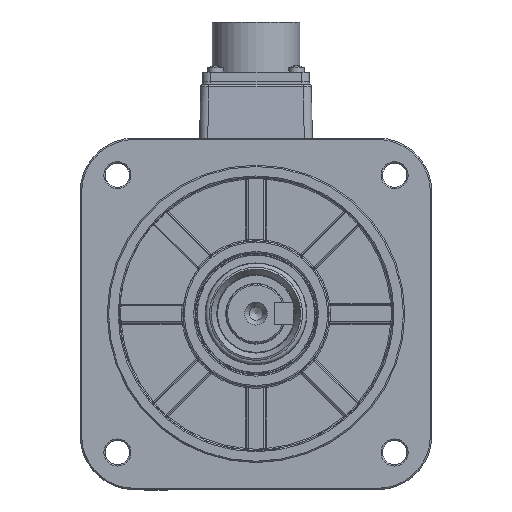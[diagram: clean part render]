
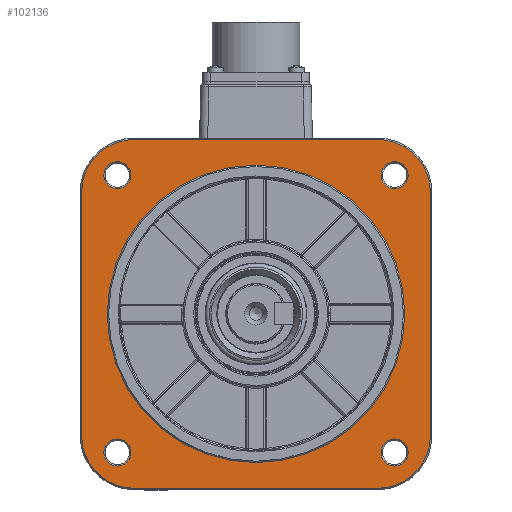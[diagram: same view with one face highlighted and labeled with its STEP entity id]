
A CAD part, top view. The second image highlights one B-rep face of the part: STEP entity #102136.
In plain terms, the highlighted planar face has unit normal (0, 0, 1).
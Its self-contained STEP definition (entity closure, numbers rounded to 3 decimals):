
#1516 = VERTEX_POINT ( 'NONE', #179482 ) ;
#1548 = EDGE_LOOP ( 'NONE', ( #88348 ) ) ;
#1876 = CARTESIAN_POINT ( 'NONE',  ( 45., 64.5, -5. ) ) ;
#1897 = FACE_BOUND ( 'NONE', #164307, .T. ) ;
#2606 = EDGE_CURVE ( 'NONE', #65497, #203440, #81240, .T. ) ;
#5748 = VERTEX_POINT ( 'NONE', #135360 ) ;
#5945 = CIRCLE ( 'NONE', #135952, 5. ) ;
#16042 = AXIS2_PLACEMENT_3D ( 'NONE', #200973, #218517, #58996 ) ;
#16442 = DIRECTION ( 'NONE',  ( 0., 1., 0. ) ) ;
#18868 = EDGE_LOOP ( 'NONE', ( #68346, #35653, #151516, #151448, #161691, #197443, #85599, #28686 ) ) ;
#22049 = EDGE_LOOP ( 'NONE', ( #95048 ) ) ;
#22379 = VERTEX_POINT ( 'NONE', #93330 ) ;
#22634 = EDGE_CURVE ( 'NONE', #106002, #41826, #196539, .T. ) ;
#28686 = ORIENTED_EDGE ( 'NONE', *, *, #102724, .F. ) ;
#32471 = FACE_OUTER_BOUND ( 'NONE', #18868, .T. ) ;
#33269 = LINE ( 'NONE', #52964, #80977 ) ;
#35049 = DIRECTION ( 'NONE',  ( 1., 0., 0. ) ) ;
#35653 = ORIENTED_EDGE ( 'NONE', *, *, #56729, .F. ) ;
#36209 = DIRECTION ( 'NONE',  ( 1., 0., 0. ) ) ;
#36281 = AXIS2_PLACEMENT_3D ( 'NONE', #217496, #89458, #73144 ) ;
#36763 = PLANE ( 'NONE',  #228839 ) ;
#39044 = FACE_BOUND ( 'NONE', #147015, .T. ) ;
#39160 = EDGE_CURVE ( 'NONE', #208853, #106002, #72241, .T. ) ;
#41826 = VERTEX_POINT ( 'NONE', #191567 ) ;
#42740 = DIRECTION ( 'NONE',  ( 1., 0., 0. ) ) ;
#48895 = EDGE_CURVE ( 'NONE', #81887, #81887, #202630, .T. ) ;
#49879 = FACE_BOUND ( 'NONE', #153378, .T. ) ;
#50192 = CARTESIAN_POINT ( 'NONE',  ( -64.5, -45., -5. ) ) ;
#51863 = DIRECTION ( 'NONE',  ( 1., 0., 0. ) ) ;
#52964 = CARTESIAN_POINT ( 'NONE',  ( 64.5, -45., -5. ) ) ;
#54109 = CARTESIAN_POINT ( 'NONE',  ( 45., -64.5, -5. ) ) ;
#54496 = DIRECTION ( 'NONE',  ( 1., 0., 0. ) ) ;
#55336 = FACE_BOUND ( 'NONE', #22049, .T. ) ;
#56729 = EDGE_CURVE ( 'NONE', #110216, #65497, #209520, .T. ) ;
#58996 = DIRECTION ( 'NONE',  ( 1., 0., 0. ) ) ;
#62194 = CARTESIAN_POINT ( 'NONE',  ( -45., -64.5, -5. ) ) ;
#63605 = CARTESIAN_POINT ( 'NONE',  ( -51.265, 51.265, -5. ) ) ;
#64986 = VECTOR ( 'NONE', #51863, 1000. ) ;
#65497 = VERTEX_POINT ( 'NONE', #54109 ) ;
#65615 = DIRECTION ( 'NONE',  ( 1., 0., 0. ) ) ;
#67184 = CIRCLE ( 'NONE', #108151, 19.5 ) ;
#68346 = ORIENTED_EDGE ( 'NONE', *, *, #2606, .F. ) ;
#69373 = CARTESIAN_POINT ( 'NONE',  ( 64.5, 45., -5. ) ) ;
#70957 = VERTEX_POINT ( 'NONE', #88440 ) ;
#71609 = LINE ( 'NONE', #1876, #64986 ) ;
#72241 = LINE ( 'NONE', #50192, #202768 ) ;
#73144 = DIRECTION ( 'NONE',  ( 1., 0., 0. ) ) ;
#75215 = EDGE_CURVE ( 'NONE', #5748, #100507, #67184, .T. ) ;
#77117 = CIRCLE ( 'NONE', #36281, 5. ) ;
#80055 = AXIS2_PLACEMENT_3D ( 'NONE', #190176, #204225, #65615 ) ;
#80977 = VECTOR ( 'NONE', #87895, 1000. ) ;
#81240 = LINE ( 'NONE', #223261, #82918 ) ;
#81887 = VERTEX_POINT ( 'NONE', #132002 ) ;
#82918 = VECTOR ( 'NONE', #134786, 1000. ) ;
#85495 = DIRECTION ( 'NONE',  ( 1., 0., 0. ) ) ;
#85599 = ORIENTED_EDGE ( 'NONE', *, *, #39160, .F. ) ;
#85779 = EDGE_CURVE ( 'NONE', #22379, #22379, #5945, .T. ) ;
#87895 = DIRECTION ( 'NONE',  ( 0., -1., 0. ) ) ;
#88348 = ORIENTED_EDGE ( 'NONE', *, *, #85779, .F. ) ;
#88440 = CARTESIAN_POINT ( 'NONE',  ( 55., 0., -5. ) ) ;
#89312 = EDGE_CURVE ( 'NONE', #1516, #1516, #77117, .T. ) ;
#89458 = DIRECTION ( 'NONE',  ( 0., 0., 1. ) ) ;
#90627 = ORIENTED_EDGE ( 'NONE', *, *, #121996, .F. ) ;
#93330 = CARTESIAN_POINT ( 'NONE',  ( -46.265, 51.265, -5. ) ) ;
#93720 = CARTESIAN_POINT ( 'NONE',  ( 0., 55., -5. ) ) ;
#95048 = ORIENTED_EDGE ( 'NONE', *, *, #89312, .F. ) ;
#100507 = VERTEX_POINT ( 'NONE', #69373 ) ;
#102136 = ADVANCED_FACE ( 'NONE', ( #32471, #110014, #1897, #39044, #55336, #49879 ), #36763, .T. ) ;
#102724 = EDGE_CURVE ( 'NONE', #203440, #208853, #106409, .T. ) ;
#102985 = DIRECTION ( 'NONE',  ( 0., 0., -1. ) ) ;
#106002 = VERTEX_POINT ( 'NONE', #207280 ) ;
#106409 = CIRCLE ( 'NONE', #191746, 19.5 ) ;
#106638 = EDGE_CURVE ( 'NONE', #100507, #110216, #33269, .T. ) ;
#108151 = AXIS2_PLACEMENT_3D ( 'NONE', #162754, #161596, #54496 ) ;
#110014 = FACE_BOUND ( 'NONE', #1548, .T. ) ;
#110216 = VERTEX_POINT ( 'NONE', #190707 ) ;
#111870 = AXIS2_PLACEMENT_3D ( 'NONE', #161869, #192160, #36209 ) ;
#114487 = EDGE_CURVE ( 'NONE', #70957, #70957, #123106, .T. ) ;
#114962 = ORIENTED_EDGE ( 'NONE', *, *, #114487, .F. ) ;
#121996 = EDGE_CURVE ( 'NONE', #174612, #174612, #198110, .T. ) ;
#123106 = CIRCLE ( 'NONE', #111870, 55. ) ;
#127847 = AXIS2_PLACEMENT_3D ( 'NONE', #146218, #199728, #221848 ) ;
#132002 = CARTESIAN_POINT ( 'NONE',  ( 56.265, 51.265, -5. ) ) ;
#134786 = DIRECTION ( 'NONE',  ( -1., 0., 0. ) ) ;
#135360 = CARTESIAN_POINT ( 'NONE',  ( 45., 64.5, -5. ) ) ;
#135952 = AXIS2_PLACEMENT_3D ( 'NONE', #63605, #150982, #42740 ) ;
#144993 = DIRECTION ( 'NONE',  ( 0., 0., 1. ) ) ;
#146218 = CARTESIAN_POINT ( 'NONE',  ( 45., -45., -5. ) ) ;
#147015 = EDGE_LOOP ( 'NONE', ( #90627 ) ) ;
#150982 = DIRECTION ( 'NONE',  ( 0., 0., 1. ) ) ;
#151448 = ORIENTED_EDGE ( 'NONE', *, *, #75215, .F. ) ;
#151516 = ORIENTED_EDGE ( 'NONE', *, *, #106638, .F. ) ;
#153378 = EDGE_LOOP ( 'NONE', ( #114962 ) ) ;
#157146 = CARTESIAN_POINT ( 'NONE',  ( 56.265, -51.265, -5. ) ) ;
#159559 = DIRECTION ( 'NONE',  ( 0., 0., -1. ) ) ;
#161596 = DIRECTION ( 'NONE',  ( 0., 0., -1. ) ) ;
#161691 = ORIENTED_EDGE ( 'NONE', *, *, #198003, .F. ) ;
#161869 = CARTESIAN_POINT ( 'NONE',  ( 0., 0., -5. ) ) ;
#161883 = CARTESIAN_POINT ( 'NONE',  ( -45., -45., -5. ) ) ;
#162754 = CARTESIAN_POINT ( 'NONE',  ( 45., 45., -5. ) ) ;
#164307 = EDGE_LOOP ( 'NONE', ( #190423 ) ) ;
#174612 = VERTEX_POINT ( 'NONE', #157146 ) ;
#174869 = CARTESIAN_POINT ( 'NONE',  ( -64.5, -45., -5. ) ) ;
#179482 = CARTESIAN_POINT ( 'NONE',  ( -46.265, -51.265, -5. ) ) ;
#187162 = CARTESIAN_POINT ( 'NONE',  ( -45., 45., -5. ) ) ;
#190176 = CARTESIAN_POINT ( 'NONE',  ( 51.265, 51.265, -5. ) ) ;
#190423 = ORIENTED_EDGE ( 'NONE', *, *, #48895, .F. ) ;
#190707 = CARTESIAN_POINT ( 'NONE',  ( 64.5, -45., -5. ) ) ;
#191567 = CARTESIAN_POINT ( 'NONE',  ( -45., 64.5, -5. ) ) ;
#191746 = AXIS2_PLACEMENT_3D ( 'NONE', #161883, #159559, #35049 ) ;
#192160 = DIRECTION ( 'NONE',  ( 0., 0., 1. ) ) ;
#196539 = CIRCLE ( 'NONE', #226280, 19.5 ) ;
#197443 = ORIENTED_EDGE ( 'NONE', *, *, #22634, .F. ) ;
#198003 = EDGE_CURVE ( 'NONE', #41826, #5748, #71609, .T. ) ;
#198110 = CIRCLE ( 'NONE', #16042, 5. ) ;
#199629 = DIRECTION ( 'NONE',  ( 1., 0., 0. ) ) ;
#199728 = DIRECTION ( 'NONE',  ( 0., 0., -1. ) ) ;
#200973 = CARTESIAN_POINT ( 'NONE',  ( 51.265, -51.265, -5. ) ) ;
#202630 = CIRCLE ( 'NONE', #80055, 5. ) ;
#202768 = VECTOR ( 'NONE', #16442, 1000. ) ;
#203440 = VERTEX_POINT ( 'NONE', #62194 ) ;
#204225 = DIRECTION ( 'NONE',  ( 0., 0., 1. ) ) ;
#207280 = CARTESIAN_POINT ( 'NONE',  ( -64.5, 45., -5. ) ) ;
#208853 = VERTEX_POINT ( 'NONE', #174869 ) ;
#209520 = CIRCLE ( 'NONE', #127847, 19.5 ) ;
#217496 = CARTESIAN_POINT ( 'NONE',  ( -51.265, -51.265, -5. ) ) ;
#218517 = DIRECTION ( 'NONE',  ( 0., 0., 1. ) ) ;
#221848 = DIRECTION ( 'NONE',  ( 1., 0., 0. ) ) ;
#223261 = CARTESIAN_POINT ( 'NONE',  ( 45., -64.5, -5. ) ) ;
#226280 = AXIS2_PLACEMENT_3D ( 'NONE', #187162, #102985, #85495 ) ;
#228839 = AXIS2_PLACEMENT_3D ( 'NONE', #93720, #144993, #199629 ) ;
